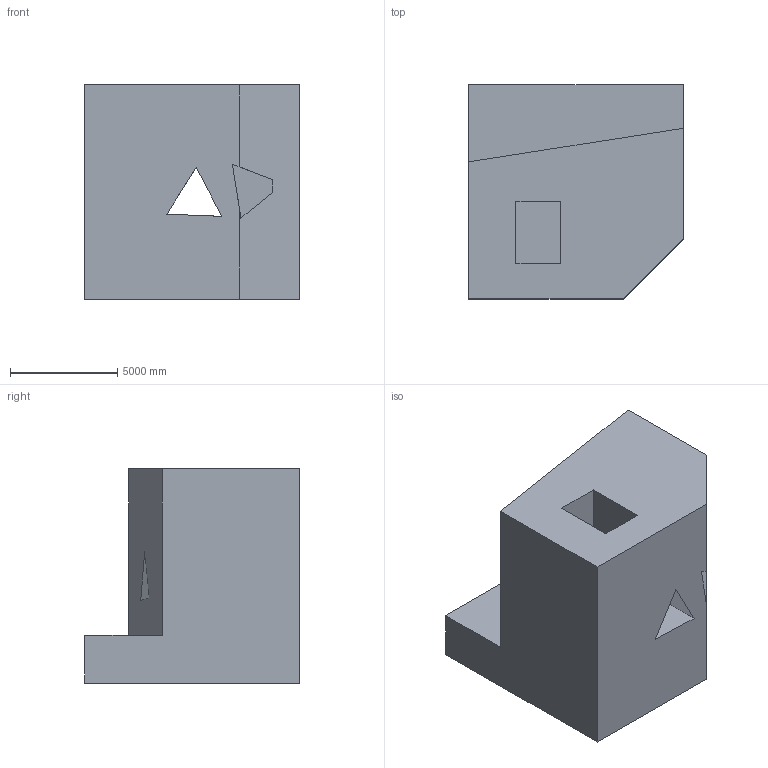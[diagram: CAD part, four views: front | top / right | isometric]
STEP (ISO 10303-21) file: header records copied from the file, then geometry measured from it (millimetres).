
FILE_DESCRIPTION (( 'STEP AP203' ), '1' );
FILE_NAME ('1638.STEP', '2022-08-19T11:15:18', ( 'user' ), ( '' ), 'SwSTEP 2.0', 'SolidWorks 2021', '' );
FILE_SCHEMA (( 'CONFIG_CONTROL_DESIGN' ));
Length unit declared in the file: centimetre
Products named in the file (1): 1638
Bounding box: 10000 x 10000 x 10000 mm (x, y, z)
Volume: 665265341446.6 mm3; surface area: 677224281.6 mm2
Topology: 1 solids, 1 shells, 37 faces, 96 edges, 64 vertices
Faces by surface type: plane 37
Entity records: 1195 total; most frequent: CARTESIAN_POINT 198, ORIENTED_EDGE 192, DIRECTION 172, EDGE_CURVE 96, VECTOR 96, LINE 96, VERTEX_POINT 64, EDGE_LOOP 44
